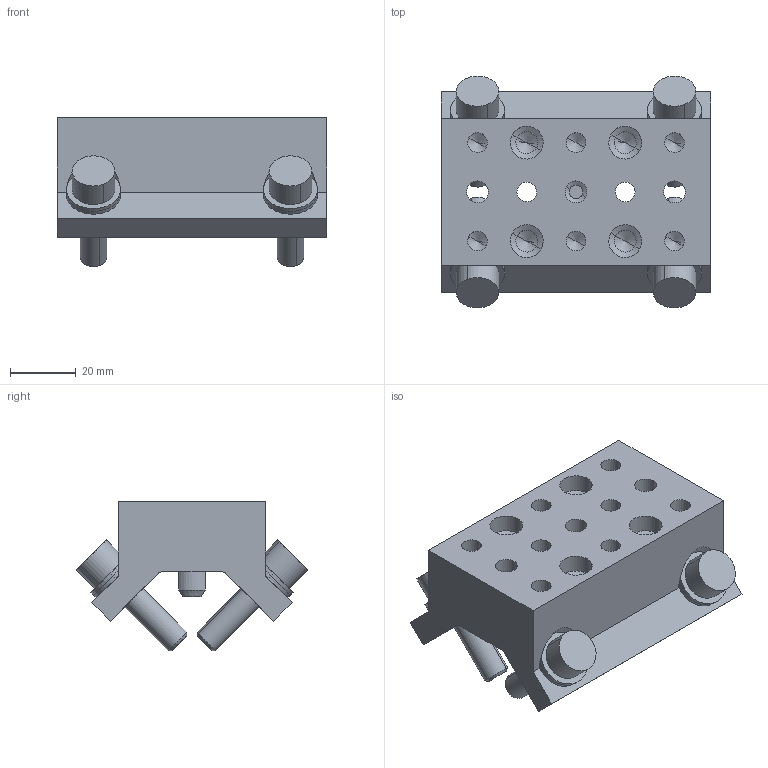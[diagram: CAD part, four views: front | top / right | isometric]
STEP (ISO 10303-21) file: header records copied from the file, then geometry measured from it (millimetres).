
FILE_DESCRIPTION(('CATIA V5 STEP Exchange'),'2;1');
FILE_NAME('C:\Users\15042\Desktop\EGT244.stp','2020-10-23T09:50:19+00:00',('none'),('none'),'CATIA Version 5 Release 21 GA (IN-10)','CATIA V5 STEP AP214','none');
FILE_SCHEMA(('AUTOMOTIVE_DESIGN { 1 0 10303 214 1 1 1 1 }'));
Length unit declared in the file: millimetre
Products named in the file (1): EGT244
Bounding box: 82 x 70.57 x 45.47 mm (x, y, z)
Volume: 101165 mm3; surface area: 33401.8 mm2
Topology: 14 solids, 14 shells, 226 faces, 506 edges, 304 vertices
Faces by surface type: cylinder 112, plane 50, cone 48, torus 16
Entity records: 6539 total; most frequent: CARTESIAN_POINT 1192, ORIENTED_EDGE 972, DIRECTION 745, EDGE_CURVE 486, AXIS2_PLACEMENT_3D 407, VERTEX_POINT 304, EDGE_LOOP 276, CIRCLE 263
